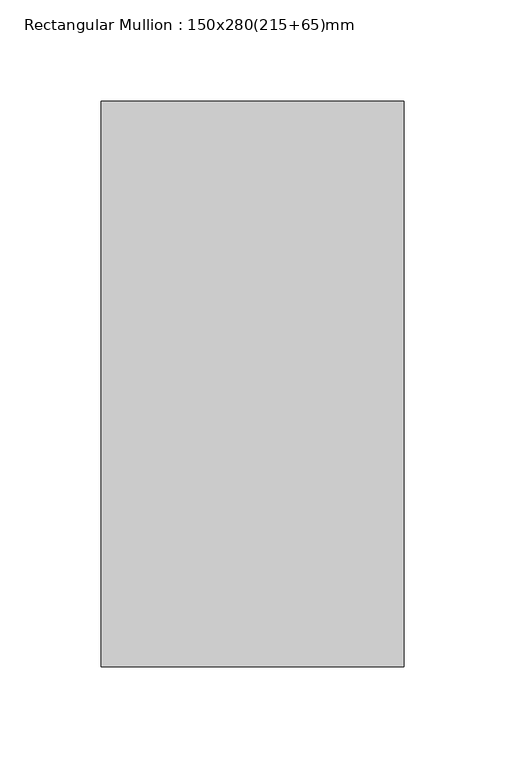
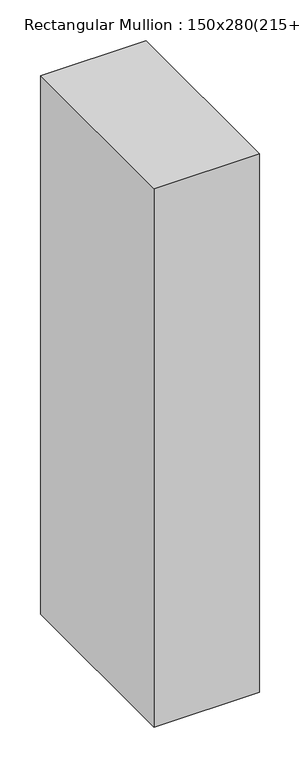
"""IFC4 building model written with IfcOpenShell, lengths in millimetres: member geometry, Rectangular Mullion : 150x280(215+65)mm."""

from ifc_helpers import new_model, si_unit, frame, origin, place, context, project, spatial, polyline, outline, extrude, source, transform, mapped, element, save


def rectangular_mullion_150x280_215_65_mm_8564ff5c(model_context):
    return source(origin(), model_context, "Body", "SweptSolid", [
        extrude(outline(polyline([(75.0, 65.0), (75.0, -215.0), (-75.0, -215.0), (-75.0, 65.0), (75.0, 65.0)])), frame((0.0, 0.0, -810.0), z_axis=(0.0, 0.0, 1.0), x_axis=(1.0, 0.0, 0.0)), (0.0, 0.0, 1.0), 810.0),
    ])


if __name__ == "__main__":
    model = new_model("IFC4")
    model_context = context("Model", 3, world=origin())
    ifc_project = project(units=[si_unit("LENGTHUNIT", "METRE", prefix="MILLI")], contexts=[model_context])
    site = spatial("IfcSite", under=ifc_project)
    building = spatial("IfcBuilding", under=site)
    placement = place(None, origin())
    rectangular_mullion_150x280_215_65_mm_shape = rectangular_mullion_150x280_215_65_mm_8564ff5c(model_context)
    element("IfcMember", 1, ObjectType="Rectangular Mullion : 150x280(215+65)mm", at=placement, inside=building, context=model_context, shape_type="MappedRepresentation", body=[
        mapped(rectangular_mullion_150x280_215_65_mm_shape, transform((0.0, 0.0, 0.0), x_axis=(1.0, 0.0, 0.0), y_axis=(0.0, 1.0, 0.0), z_axis=(0.0, 0.0, 1.0))),
    ])
    save(model, "model.ifc")
